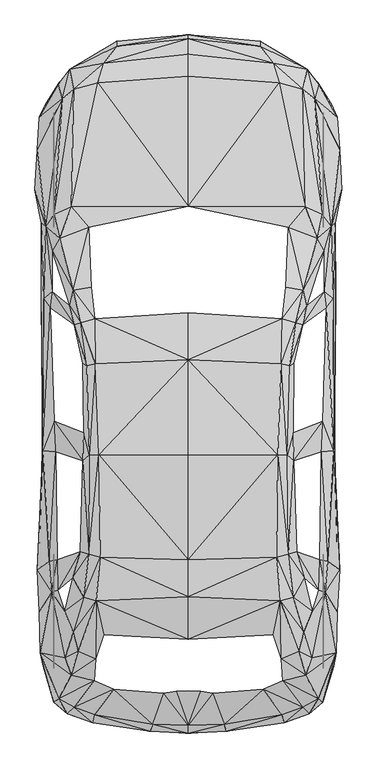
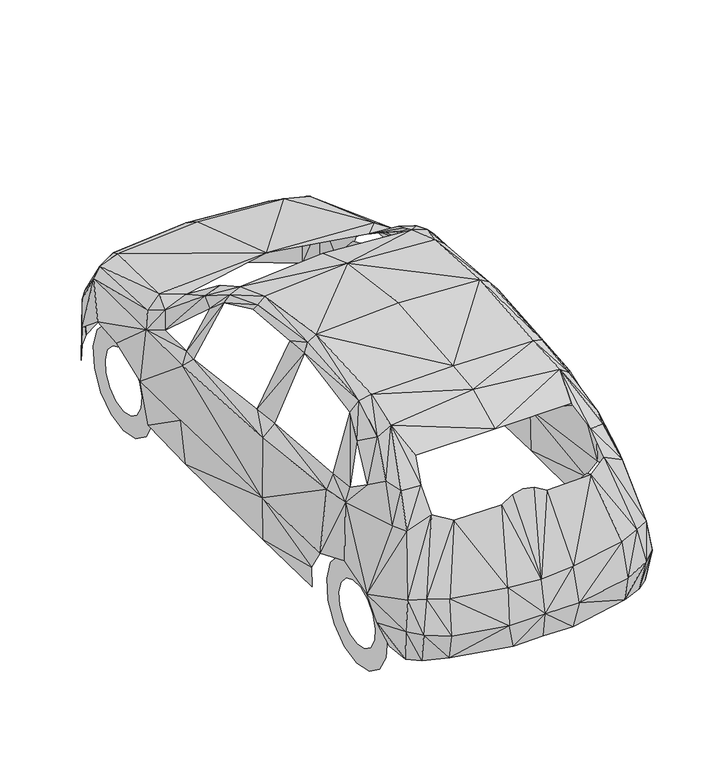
"""IFC4 building model written with IfcOpenShell, lengths in millimetres: proxy geometry, M_RPC maschio : auto yaris."""

from ifc_helpers import new_model, si_unit, origin, place, context, project, spatial, triangles, source, transform, mapped, element, save


def entourage_d8d06d19(model_context):
    return source(origin(), model_context, "Body", "Tessellation", [
        triangles([(0.0, 1658.0842575, 1357.4483929), (804.7649042, 1737.5227226, 871.3396923), (746.6530443, 1056.3160469, 983.6140892), (598.0446007, 1603.019014, 1334.9935135), (521.3143641, 1624.458403, 1346.5031307), (540.6097707, 1801.3893185, 1255.1037678), (639.9077431, 1783.2222588, 1233.2130981), (659.0902931, 1698.5934128, 1212.225135), (634.4915039, 1593.2021713, 1301.0291622), (756.3571758, 1775.5493259, 922.6812532), (813.0021194, 881.5290413, 281.7580017), (818.5312151, 1731.8807705, 528.3103397), (828.5738434, 2746.8640205, 514.2055321), (840.6475977, 2565.9837822, 662.4754789), (853.1727053, 2343.2402561, 664.055179), (817.1771553, 2158.1849819, 519.9603044), (0.0, 3180.9540939, 532.5981957), (0.0, 3095.1968285, 680.3039692), (0.0, 2973.7824371, 761.8862715), (504.8399337, 2938.8025955, 753.7619127), (701.5175726, 2847.8546585, 717.9920031), (636.5225573, 2900.0988533, 745.411841), (793.3682161, 2139.6794254, 852.6084955), (0.0, 3203.2960442, 247.2293861), (723.972452, 2929.098246, 545.0104468), (718.7819258, 2940.2693665, 244.2955718), (793.5939291, 2820.773172, 245.6496497), (653.2227007, 3009.6651306, 245.4239731), (399.4486559, 3140.4449387, 547.8314229), (659.4287899, 3012.3731049, 532.8238724), (399.3358357, 3167.9775604, 243.1671886), (470.8755097, 3044.7580467, 683.1249453), (807.9243771, 1700.8501064, 263.0267867), (803.5237009, 2099.5089123, 270.925487), (0.0, 2250.2613384, 1002.1196457), (755.4544693, 2003.3704491, 918.6190739), (716.412303, 2072.2020035, 996.9290468), (767.7538639, 1686.9710117, 930.2414749), (650.2888681, 2248.681493, 966.1240957), (554.6017582, 2133.9246895, 1001.1040827), (744.8476313, 2205.6900764, 920.4244869), (822.2548977, -230.2697382, 608.087229), (828.3482031, -2.5614364, 684.0276518), (841.098951, 231.3529933, 596.9162175), (635.1684975, -535.2724874, 694.0702801), (721.4900454, -487.6546091, 690.3465975), (520.4116576, -577.0227734, 682.673592), (0.0, -633.5549332, 661.0085627), (198.3702682, -627.8001245, 669.9227715), (808.8270836, 891.1203163, 922.9069662), (810.9710661, 889.2020468, 540.8354473), (774.5241629, 277.8424885, 955.5173304), (828.9124128, 338.5496478, 438.2651456), (809.3912933, 367.887719, 287.3999175), (726.3420748, -467.0051428, 301.2790667), (807.2473835, -306.9999747, 464.8950608), (750.3767269, -342.0927818, 317.7534971), (658.8645802, -523.3115896, 301.2790667), (672.856604, -570.4781147, 497.3925685), (0.0, -657.5895126, 313.1271443), (0.0, -677.6748419, 467.0389707), (180.2032448, -653.5273333, 305.7926356), (211.2338725, -668.6477039, 456.6578456), (531.0184593, -592.2560005, 316.3994373), (531.9211658, -620.8041853, 473.0194196), (747.2172541, -506.7243027, 507.3223766), (586.5350561, 834.8138695, 1420.7509243), (471.7782163, -131.1974424, 1315.2467537), (511.9487658, 56.5659922, 1406.7589005), (601.4297502, 329.9739358, 1355.1916992), (643.5185692, 184.8634799, 1276.5431568), (0.0, -155.3449147, 1333.9780231), (516.3494419, 1374.9721779, 1433.5015995), (564.6443865, 1363.0114254, 1404.1635647), (585.8580262, 1376.6648071, 1373.4715427), (0.0, 1396.6372799, 1450.8787365), (0.0, -441.6164309, 1123.7596773), (67.7031622, -446.5813531, 1112.0244198), (730.1786139, 287.0952667, 1033.4888065), (738.1901161, 884.8013706, 996.0263403), (582.8113735, 990.8696056, 1405.5176971), (651.9814247, -356.5361226, 1027.3955011), (724.988015, 117.0474885, 1046.8037642), (688.0898312, 0.1466902, 1121.0515577), (684.7046453, -258.4793899, 1015.2088903), (612.3751213, -222.3710379, 1190.7858187), (759.9680019, 105.4251057, 971.5404076), (136.1961926, -455.7212749, 1075.126236), (523.458274, -386.325547, 1106.0439709), (415.1332363, -435.4103053, 1061.8112783), (515.2210588, -265.0240304, 1218.205584), (640.8104496, -116.1899101, 1198.7973209), (582.6985534, 77.6668073, 1345.6004242), (0.0, 78.7951995, 1442.9800907), (0.0, 284.6128056, 1469.384293), (0.0, 866.4086706, 1519.8232201), (554.3760452, 316.5461217, 1421.5407017), (490.9607663, 299.0561464, 1450.0889591), (550.652399, 866.9728804, 1460.5829407), (497.6182451, 870.1323532, 1492.1776691), (-804.7649042, 1737.5227226, 871.3396923), (-746.6530443, 1056.3160469, 983.6140892), (-598.0446007, 1603.019014, 1334.9935135), (-521.3143641, 1624.458403, 1346.5031307), (-540.6097707, 1801.3893185, 1255.1037678), (-639.9077431, 1783.2222588, 1233.2130981), (-659.0902931, 1698.5934128, 1212.225135), (-634.4915039, 1593.2021713, 1301.0291622), (-756.3571758, 1775.5493259, 922.6812532), (-813.0021194, 881.5290413, 281.7580017), (-818.5312151, 1731.8807705, 528.3103397), (-828.5738434, 2746.8640205, 514.2055321), (-840.6475977, 2565.9837822, 662.4754789), (-853.1727053, 2343.2402561, 664.055179), (-817.1771553, 2158.1849819, 519.9603044), (-504.8399337, 2938.8025955, 753.7619127), (-701.5175726, 2847.8546585, 717.9920031), (-636.5225573, 2900.0988533, 745.411841), (-793.3682161, 2139.6794254, 852.6084955), (-723.972452, 2929.098246, 545.0104468), (-718.7819258, 2940.2693665, 244.2955718), (-793.5939291, 2820.773172, 245.6496497), (-653.2227007, 3009.6651306, 245.4239731), (-399.4486559, 3140.4449387, 547.8314229), (-659.4287899, 3012.3731049, 532.8238724), (-399.3358357, 3167.9775604, 243.1671886), (-470.8755097, 3044.7580467, 683.1249453), (-807.9243771, 1700.8501064, 263.0267867), (-803.5237009, 2099.5089123, 270.925487), (-755.4544693, 2003.3704491, 918.6190739), (-716.412303, 2072.2020035, 996.9290468), (-767.7538639, 1686.9710117, 930.2414749), (-650.2888681, 2248.681493, 966.1240957), (-554.6017582, 2133.9246895, 1001.1040827), (-744.8476313, 2205.6900764, 920.4244869), (-822.2548977, -230.2697382, 608.087229), (-828.3482031, -2.5614364, 684.0276518), (-841.098951, 231.3529933, 596.9162175), (-635.1684975, -535.2724874, 694.0702801), (-721.4900454, -487.6546091, 690.3465975), (-520.4116576, -577.0227734, 682.673592), (-198.3702682, -627.8001245, 669.9227715), (-808.8270836, 891.1203163, 922.9069662), (-810.9710661, 889.2020468, 540.8354473), (-774.5241629, 277.8424885, 955.5173304), (-828.9124128, 338.5496478, 438.2651456), (-809.3912933, 367.887719, 287.3999175), (-726.3420748, -467.0051428, 301.2790667), (-807.2473835, -306.9999747, 464.8950608), (-750.3767269, -342.0927818, 317.7534971), (-658.8645802, -523.3115896, 301.2790667), (-672.856604, -570.4781147, 497.3925685), (-180.2032448, -653.5273333, 305.7926356), (-211.2338725, -668.6477039, 456.6578456), (-531.0184593, -592.2560005, 316.3994373), (-531.9211658, -620.8041853, 473.0194196), (-747.2172541, -506.7243027, 507.3223766), (-586.5350561, 834.8138695, 1420.7509243), (-471.7782163, -131.1974424, 1315.2467537), (-511.9487658, 56.5659922, 1406.7589005), (-601.4297502, 329.9739358, 1355.1916992), (-643.5185692, 184.8634799, 1276.5431568), (-516.3494419, 1374.9721779, 1433.5015995), (-564.6443865, 1363.0114254, 1404.1635647), (-585.8580262, 1376.6648071, 1373.4715427), (-67.7031622, -446.5813531, 1112.0244198), (-730.1786139, 287.0952667, 1033.4888065), (-738.1901161, 884.8013706, 996.0263403), (-582.8113735, 990.8696056, 1405.5176971), (-651.9814247, -356.5361226, 1027.3955011), (-724.988015, 117.0474885, 1046.8037642), (-688.0898312, 0.1466902, 1121.0515577), (-684.7046453, -258.4793899, 1015.2088903), (-612.3751213, -222.3710379, 1190.7858187), (-759.9680019, 105.4251057, 971.5404076), (-136.1961926, -455.7212749, 1075.126236), (-523.458274, -386.325547, 1106.0439709), (-415.1332363, -435.4103053, 1061.8112783), (-515.2210588, -265.0240304, 1218.205584), (-640.8104496, -116.1899101, 1198.7973209), (-582.6985534, 77.6668073, 1345.6004242), (-554.3760452, 316.5461217, 1421.5407017), (-490.9607663, 299.0561464, 1450.0889591), (-550.652399, 866.9728804, 1460.5829407), (-497.6182451, 870.1323532, 1492.1776691), (-749.778653, 2452.6485489, -0.0225677), (-749.778653, 2452.6485489, 124.0999015), (-749.778653, 2582.5257957, 27.6228892), (-749.778653, 2532.087014, 141.0256852), (-749.778653, 2689.9483086, 105.5943631), (-749.778653, 2597.6460938, 188.7564109), (-749.778653, 2756.2971657, 220.5769069), (-749.778653, 2638.2680328, 258.9420251), (-749.778653, 2770.1765511, 352.71092), (-749.778653, 2646.7308884, 339.7344592), (-749.778653, 2729.2159698, 478.9773045), (-749.778653, 2621.6809639, 416.9160853), (-749.778653, 2640.2993042, 577.598247), (-749.778653, 2567.4054977, 477.1718914), (-749.778653, 2518.9976967, 631.6479275), (-749.778653, 2493.270488, 510.2336088), (-749.778653, 2386.2995464, 631.6479275), (-749.778653, 2412.0267551, 510.2336088), (-749.778653, 2264.9980843, 577.598247), (-749.778653, 2337.8917454, 477.1718914), (-749.778653, 2176.0811279, 478.9773045), (-749.778653, 2283.6164246, 416.9160853), (-749.778653, 2135.1208374, 352.71092), (-749.778653, 2258.5662094, 339.7344592), (-749.778653, 2148.9999321, 220.5769069), (-749.778653, 2267.0290649, 258.9420251), (-749.778653, 2215.3490799, 105.5943631), (-749.778653, 2307.651004, 188.7564109), (-749.778653, 2322.7714474, 27.6228892), (-749.778653, 2373.2102291, 141.0256852), (749.778653, 2452.6485489, -0.0225677), (749.778653, 2452.6485489, 124.0999015), (749.778653, 2322.7714474, 27.6228892), (749.778653, 2373.2102291, 141.0256852), (749.778653, 2215.3490799, 105.5943631), (749.778653, 2307.651004, 188.7564109), (749.778653, 2148.9999321, 220.5769069), (749.778653, 2267.0290649, 258.9420251), (749.778653, 2135.1208374, 352.71092), (749.778653, 2258.5662094, 339.7344592), (749.778653, 2176.0811279, 478.9773045), (749.778653, 2283.6164246, 416.9160853), (749.778653, 2264.9980843, 577.598247), (749.778653, 2337.8917454, 477.1718914), (749.778653, 2386.2995464, 631.6479275), (749.778653, 2412.0267551, 510.2336088), (749.778653, 2518.9976967, 631.6479275), (749.778653, 2493.270488, 510.2336088), (749.778653, 2640.2993042, 577.598247), (749.778653, 2567.4054977, 477.1718914), (749.778653, 2729.2159698, 478.9773045), (749.778653, 2621.6809639, 416.9160853), (749.778653, 2770.1765511, 352.71092), (749.778653, 2646.7308884, 339.7344592), (749.778653, 2756.2971657, 220.5769069), (749.778653, 2638.2680328, 258.9420251), (749.778653, 2689.9483086, 105.5943631), (749.778653, 2597.6460938, 188.7564109), (749.778653, 2582.5257957, 27.6228892), (749.778653, 2532.087014, 141.0256852), (-749.778653, 0.0, -0.0225677), (-749.778653, 0.0, 124.0999015), (-749.778653, 129.8772378, 27.6228892), (-749.778653, 79.4383743, 141.0256852), (-749.778653, 237.299578, 105.5943631), (-749.778653, 144.9976084, 188.7564109), (-749.778653, 303.6486895, 220.5769069), (-749.778653, 185.6195021, 258.9420251), (-749.778653, 317.5278205, 352.71092), (-749.778653, 194.082394, 339.7344592), (-749.778653, 276.567421, 478.9773045), (-749.778653, 169.0322333, 416.9160853), (-749.778653, 187.6505918, 577.598247), (-749.778653, 114.756858, 477.1718914), (-749.778653, 66.3490978, 631.6479275), (-749.778653, 40.6218982, 510.2336088), (-749.778653, -66.3490978, 631.6479275), (-749.778653, -40.6218982, 510.2336088), (-749.778653, -187.6505918, 577.598247), (-749.778653, -114.756858, 477.1718914), (-749.778653, -276.567421, 478.9773045), (-749.778653, -169.0322333, 416.9160853), (-749.778653, -317.5278205, 352.71092), (-749.778653, -194.082394, 339.7344592), (-749.778653, -303.6486895, 220.5769069), (-749.778653, -185.6195021, 258.9420251), (-749.778653, -237.299578, 105.5943631), (-749.778653, -144.9976084, 188.7564109), (-749.778653, -129.8772378, 27.6228892), (-749.778653, -79.4383743, 141.0256852), (749.778653, 0.0, -0.0225677), (749.778653, 0.0, 124.0999015), (749.778653, -129.8772378, 27.6228892), (749.778653, -79.4383743, 141.0256852), (749.778653, -237.299578, 105.5943631), (749.778653, -144.9976084, 188.7564109), (749.778653, -303.6486895, 220.5769069), (749.778653, -185.6195021, 258.9420251), (749.778653, -317.5278205, 352.71092), (749.778653, -194.082394, 339.7344592), (749.778653, -276.567421, 478.9773045), (749.778653, -169.0322333, 416.9160853), (749.778653, -187.6505918, 577.598247), (749.778653, -114.756858, 477.1718914), (749.778653, -66.3490978, 631.6479275), (749.778653, -40.6218982, 510.2336088), (749.778653, 66.3490978, 631.6479275), (749.778653, 40.6218982, 510.2336088), (749.778653, 187.6505918, 577.598247), (749.778653, 114.756858, 477.1718914), (749.778653, 276.567421, 478.9773045), (749.778653, 169.0322333, 416.9160853), (749.778653, 317.5278205, 352.71092), (749.778653, 194.082394, 339.7344592), (749.778653, 303.6486895, 220.5769069), (749.778653, 185.6195021, 258.9420251), (749.778653, 237.299578, 105.5943631), (749.778653, 144.9976084, 188.7564109), (749.778653, 129.8772378, 27.6228892), (749.778653, 79.4383743, 141.0256852)], [[38, 3, 50], [38, 50, 2], [5, 4, 7], [5, 7, 6], [4, 9, 8], [4, 8, 7], [9, 38, 10], [9, 10, 8], [33, 12, 51], [33, 51, 11], [2, 50, 51], [2, 51, 12], [19, 20, 18], [18, 20, 32], [13, 21, 14], [16, 23, 2], [16, 2, 12], [17, 29, 24], [24, 29, 31], [27, 26, 25], [27, 25, 13], [22, 21, 30], [30, 21, 25], [13, 25, 21], [29, 30, 31], [30, 28, 31], [28, 30, 25], [28, 25, 26], [18, 32, 17], [17, 32, 29], [32, 30, 29], [20, 22, 32], [22, 30, 32], [34, 16, 12], [34, 12, 33], [40, 39, 35], [35, 39, 20], [40, 37, 39], [39, 41, 22], [39, 22, 20], [20, 19, 35], [16, 15, 23], [14, 21, 23], [14, 23, 15], [41, 23, 21], [22, 41, 21], [38, 2, 10], [41, 37, 23], [10, 2, 23], [10, 23, 36], [36, 23, 37], [39, 37, 41], [40, 6, 7], [40, 7, 37], [7, 8, 36], [7, 36, 37], [52, 87, 44], [51, 50, 52], [51, 52, 44], [11, 51, 53], [11, 53, 54], [51, 44, 53], [66, 55, 56], [56, 55, 57], [66, 59, 58], [66, 58, 55], [61, 60, 62], [61, 62, 63], [63, 62, 64], [63, 64, 65], [59, 65, 64], [59, 64, 58], [47, 49, 63], [47, 63, 65], [61, 63, 49], [61, 49, 48], [45, 47, 65], [45, 65, 59], [42, 46, 66], [42, 66, 56], [46, 45, 59], [46, 59, 66], [98, 69, 93], [98, 93, 97], [93, 71, 97], [97, 71, 70], [73, 74, 4], [73, 4, 5], [76, 73, 5], [1, 76, 5], [48, 88, 78], [48, 49, 88], [77, 48, 78], [3, 80, 50], [80, 79, 52], [80, 52, 50], [74, 75, 9], [4, 74, 9], [67, 80, 3], [67, 3, 81], [83, 84, 87], [86, 82, 85], [92, 86, 85], [85, 87, 84], [92, 85, 84], [90, 47, 45], [90, 45, 89], [90, 88, 49], [90, 49, 47], [42, 43, 87], [85, 42, 87], [44, 87, 43], [79, 83, 87], [79, 87, 52], [89, 45, 46], [82, 89, 46], [82, 46, 42], [85, 82, 42], [91, 86, 69], [91, 69, 68], [91, 89, 82], [91, 82, 86], [83, 79, 70], [83, 70, 71], [93, 92, 84], [93, 84, 71], [69, 86, 92], [69, 92, 93], [97, 70, 67], [97, 67, 99], [74, 99, 81], [75, 74, 81], [67, 81, 99], [100, 73, 76], [96, 100, 76], [99, 74, 73], [100, 99, 73], [95, 98, 100], [96, 95, 100], [100, 98, 97], [100, 97, 99], [94, 69, 98], [95, 94, 98], [72, 68, 69], [94, 72, 69], [132, 143, 102], [132, 101, 143], [104, 106, 103], [104, 105, 106], [103, 107, 108], [103, 106, 107], [108, 109, 132], [108, 107, 109], [128, 144, 111], [128, 110, 144], [101, 144, 143], [101, 111, 144], [19, 18, 116], [18, 127, 116], [112, 113, 117], [115, 101, 119], [115, 111, 101], [17, 24, 124], [24, 126, 124], [122, 120, 121], [122, 112, 120], [118, 125, 117], [125, 120, 117], [112, 117, 120], [124, 126, 125], [125, 126, 123], [123, 120, 125], [123, 121, 120], [18, 17, 127], [17, 124, 127], [127, 124, 125], [116, 127, 118], [118, 127, 125], [129, 111, 115], [129, 128, 111], [35, 116, 133], [19, 116, 35], [134, 133, 131], [133, 118, 135], [133, 116, 118], [134, 35, 133], [115, 119, 114], [113, 119, 117], [113, 114, 119], [135, 117, 119], [118, 117, 135], [132, 109, 101], [135, 119, 131], [109, 119, 101], [109, 130, 119], [130, 131, 119], [133, 135, 131], [134, 106, 105], [134, 131, 106], [106, 130, 107], [106, 131, 130], [145, 138, 175], [144, 145, 143], [144, 138, 145], [110, 146, 144], [110, 147, 146], [144, 146, 138], [157, 149, 148], [149, 150, 148], [157, 151, 152], [157, 148, 151], [61, 153, 60], [61, 154, 153], [154, 155, 153], [154, 156, 155], [152, 155, 156], [152, 151, 155], [141, 154, 142], [141, 156, 154], [61, 142, 154], [61, 48, 142], [139, 156, 141], [139, 152, 156], [136, 157, 140], [136, 149, 157], [140, 152, 139], [140, 157, 152], [183, 181, 160], [183, 182, 181], [181, 182, 162], [182, 161, 162], [163, 103, 164], [163, 104, 103], [76, 104, 163], [1, 104, 76], [48, 166, 176], [48, 176, 142], [77, 166, 48], [102, 143, 168], [168, 145, 167], [168, 143, 145], [164, 108, 165], [103, 108, 164], [158, 102, 168], [158, 169, 102], [171, 175, 172], [174, 173, 170], [180, 173, 174], [173, 172, 175], [180, 172, 173], [178, 139, 141], [178, 177, 139], [178, 142, 176], [178, 141, 142], [136, 175, 137], [173, 175, 136], [138, 137, 175], [167, 175, 171], [167, 145, 175], [177, 140, 139], [170, 140, 177], [170, 136, 140], [173, 136, 170], [179, 160, 174], [179, 159, 160], [179, 170, 177], [179, 174, 170], [171, 161, 167], [171, 162, 161], [181, 172, 180], [181, 162, 172], [160, 180, 174], [160, 181, 180], [182, 158, 161], [182, 184, 158], [164, 169, 184], [165, 169, 164], [158, 184, 169], [185, 76, 163], [96, 76, 185], [184, 163, 164], [185, 163, 184], [95, 185, 183], [96, 185, 95], [185, 182, 183], [185, 184, 182], [94, 183, 160], [95, 183, 94], [72, 160, 159], [94, 160, 72], [186, 189, 188], [186, 187, 189], [188, 191, 190], [188, 189, 191], [190, 193, 192], [190, 191, 193], [192, 195, 194], [192, 193, 195], [194, 197, 196], [194, 195, 197], [196, 199, 198], [196, 197, 199], [198, 201, 200], [198, 199, 201], [200, 203, 202], [200, 201, 203], [202, 205, 204], [202, 203, 205], [204, 207, 206], [204, 205, 207], [206, 209, 208], [206, 207, 209], [208, 211, 210], [208, 209, 211], [210, 213, 212], [210, 211, 213], [212, 215, 214], [212, 213, 215], [214, 187, 186], [214, 215, 187], [216, 219, 218], [216, 217, 219], [218, 221, 220], [218, 219, 221], [220, 223, 222], [220, 221, 223], [222, 225, 224], [222, 223, 225], [224, 227, 226], [224, 225, 227], [226, 229, 228], [226, 227, 229], [228, 231, 230], [228, 229, 231], [230, 233, 232], [230, 231, 233], [232, 235, 234], [232, 233, 235], [234, 237, 236], [234, 235, 237], [236, 239, 238], [236, 237, 239], [238, 241, 240], [238, 239, 241], [240, 243, 242], [240, 241, 243], [242, 245, 244], [242, 243, 245], [244, 217, 216], [244, 245, 217], [246, 249, 248], [246, 247, 249], [248, 251, 250], [248, 249, 251], [250, 253, 252], [250, 251, 253], [252, 255, 254], [252, 253, 255], [254, 257, 256], [254, 255, 257], [256, 259, 258], [256, 257, 259], [258, 261, 260], [258, 259, 261], [260, 263, 262], [260, 261, 263], [262, 265, 264], [262, 263, 265], [264, 267, 266], [264, 265, 267], [266, 269, 268], [266, 267, 269], [268, 271, 270], [268, 269, 271], [270, 273, 272], [270, 271, 273], [272, 275, 274], [272, 273, 275], [274, 247, 246], [274, 275, 247], [276, 279, 278], [276, 277, 279], [278, 281, 280], [278, 279, 281], [280, 283, 282], [280, 281, 283], [282, 285, 284], [282, 283, 285], [284, 287, 286], [284, 285, 287], [286, 289, 288], [286, 287, 289], [288, 291, 290], [288, 289, 291], [290, 293, 292], [290, 291, 293], [292, 295, 294], [292, 293, 295], [294, 297, 296], [294, 295, 297], [296, 299, 298], [296, 297, 299], [298, 301, 300], [298, 299, 301], [300, 303, 302], [300, 301, 303], [302, 305, 304], [302, 303, 305], [304, 277, 276], [304, 305, 277]], closed=False),
    ])


if __name__ == "__main__":
    model = new_model("IFC4")
    model_context = context("Model", 3, world=origin())
    ifc_project = project(units=[si_unit("LENGTHUNIT", "METRE", prefix="MILLI")], contexts=[model_context])
    site = spatial("IfcSite", under=ifc_project)
    building = spatial("IfcBuilding", under=site)
    placement = place(None, origin())
    entourage_shape = entourage_d8d06d19(model_context)
    element("IfcBuildingElementProxy", 1, Name="M_RPC maschio : auto yaris", ObjectType="M_RPC maschio : auto yaris", at=placement, inside=building, context=model_context, shape_type="MappedRepresentation", body=[
        mapped(entourage_shape, transform((0.0, 0.0, 0.0), x_axis=(1.0, 0.0, 0.0), y_axis=(0.0, 1.0, 0.0), z_axis=(0.0, 0.0, 1.0))),
    ])
    save(model, "model.ifc")
